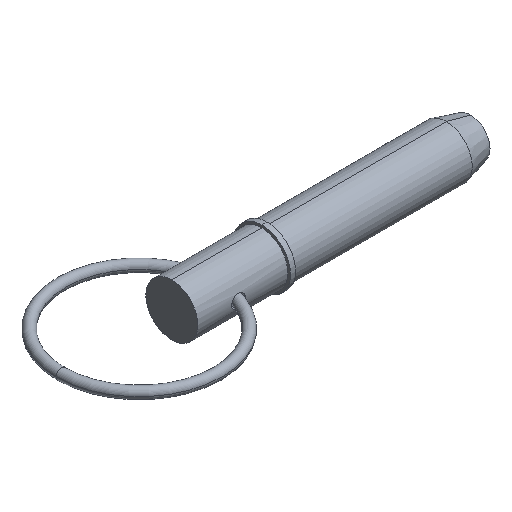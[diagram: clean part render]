
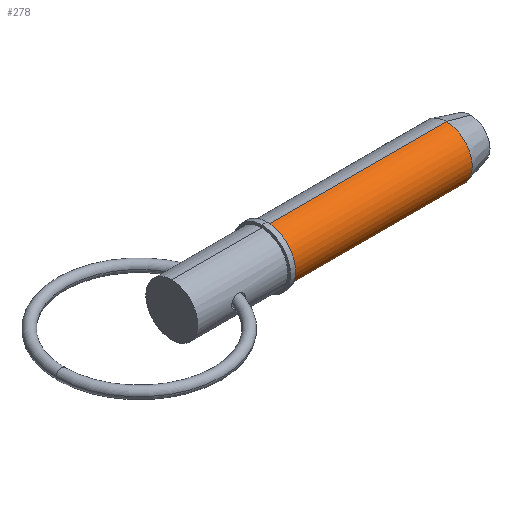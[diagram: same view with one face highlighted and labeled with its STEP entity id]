
A CAD part, isometric view. The second image highlights one B-rep face of the part: STEP entity #278.
In plain terms, the highlighted cylindrical face has radius 9.525 mm (diameter 19.05 mm), a partial arc.
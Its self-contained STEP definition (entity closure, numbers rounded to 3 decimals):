
#27 = DIRECTION ( 'NONE',  ( 1., 0., 0. ) ) ;
#29 = CARTESIAN_POINT ( 'NONE',  ( 100.643, 0., 9.525 ) ) ;
#40 = AXIS2_PLACEMENT_3D ( 'NONE', #438, #27, #279 ) ;
#42 = VECTOR ( 'NONE', #849, 1000. ) ;
#44 = EDGE_LOOP ( 'NONE', ( #569, #1003, #668, #1043 ) ) ;
#52 = DIRECTION ( 'NONE',  ( 0., 0., -1. ) ) ;
#81 = CARTESIAN_POINT ( 'NONE',  ( 34.93, 0., -9.525 ) ) ;
#111 = CIRCLE ( 'NONE', #328, 9.525 ) ;
#112 = CARTESIAN_POINT ( 'NONE',  ( 0., 0., 9.525 ) ) ;
#189 = CYLINDRICAL_SURFACE ( 'NONE', #40, 9.525 ) ;
#272 = CIRCLE ( 'NONE', #816, 9.525 ) ;
#278 = ADVANCED_FACE ( 'NONE', ( #993 ), #189, .T. ) ;
#279 = DIRECTION ( 'NONE',  ( 0., 0., -1. ) ) ;
#328 = AXIS2_PLACEMENT_3D ( 'NONE', #954, #459, #52 ) ;
#377 = EDGE_CURVE ( 'NONE', #673, #940, #111, .T. ) ;
#409 = VERTEX_POINT ( 'NONE', #796 ) ;
#411 = CARTESIAN_POINT ( 'NONE',  ( 34.93, 0., 0. ) ) ;
#415 = LINE ( 'NONE', #728, #524 ) ;
#438 = CARTESIAN_POINT ( 'NONE',  ( 0., 0., 0. ) ) ;
#459 = DIRECTION ( 'NONE',  ( 1., 0., 0. ) ) ;
#517 = CARTESIAN_POINT ( 'NONE',  ( 100.643, 0., -9.525 ) ) ;
#524 = VECTOR ( 'NONE', #742, 1000. ) ;
#559 = EDGE_CURVE ( 'NONE', #964, #940, #415, .T. ) ;
#569 = ORIENTED_EDGE ( 'NONE', *, *, #684, .F. ) ;
#585 = LINE ( 'NONE', #112, #42 ) ;
#607 = EDGE_CURVE ( 'NONE', #409, #964, #272, .T. ) ;
#650 = DIRECTION ( 'NONE',  ( 1., 0., 0. ) ) ;
#668 = ORIENTED_EDGE ( 'NONE', *, *, #559, .T. ) ;
#673 = VERTEX_POINT ( 'NONE', #29 ) ;
#684 = EDGE_CURVE ( 'NONE', #409, #673, #585, .T. ) ;
#728 = CARTESIAN_POINT ( 'NONE',  ( 0., 0., -9.525 ) ) ;
#739 = DIRECTION ( 'NONE',  ( 0., 0., -1. ) ) ;
#742 = DIRECTION ( 'NONE',  ( 1., 0., 0. ) ) ;
#796 = CARTESIAN_POINT ( 'NONE',  ( 34.93, 0., 9.525 ) ) ;
#816 = AXIS2_PLACEMENT_3D ( 'NONE', #411, #650, #739 ) ;
#849 = DIRECTION ( 'NONE',  ( 1., 0., 0. ) ) ;
#940 = VERTEX_POINT ( 'NONE', #517 ) ;
#954 = CARTESIAN_POINT ( 'NONE',  ( 100.643, 0., 0. ) ) ;
#964 = VERTEX_POINT ( 'NONE', #81 ) ;
#993 = FACE_OUTER_BOUND ( 'NONE', #44, .T. ) ;
#1003 = ORIENTED_EDGE ( 'NONE', *, *, #607, .T. ) ;
#1043 = ORIENTED_EDGE ( 'NONE', *, *, #377, .F. ) ;
